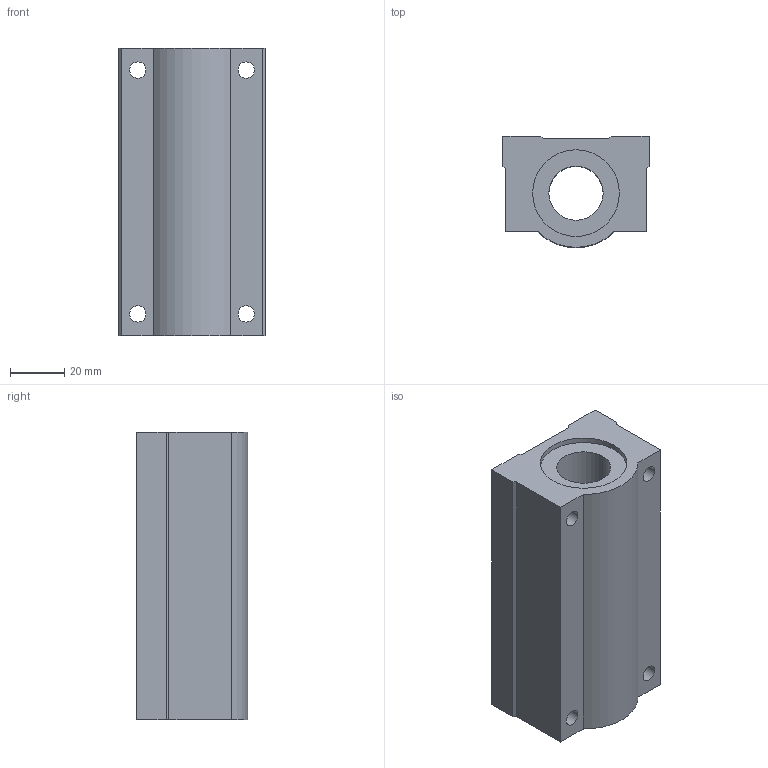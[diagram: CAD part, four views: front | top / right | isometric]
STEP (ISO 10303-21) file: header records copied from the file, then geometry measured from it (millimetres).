
FILE_DESCRIPTION((''),'2;1');
FILE_NAME('C:\Documents and Settings\ｿﾀﾀ蠑ｷ1\ｹﾙﾅﾁ ﾈｭｸ饅\ｺﾎﾇｰﾆﾄﾀﾏ\ﾁｦﾇｰ\SCE__WUU\SCE20WUU.stp','2005-06-22T15:46:49',('ｿﾀﾀ蠑ｷ1'),(''),'Autodesk Inventor 9','Autodesk Inventor 9','');
FILE_SCHEMA(('AUTOMOTIVE_DESIGN { 1 0 10303 214 1 1 1 1 }'));
Length unit declared in the file: millimetre
Products named in the file (1): SCE__UU
Bounding box: 54 x 41 x 106 mm (x, y, z)
Volume: 166017.9 mm3; surface area: 31643.6 mm2
Topology: 1 solids, 1 shells, 32 faces, 84 edges, 56 vertices
Faces by surface type: plane 17, bspline 8, cylinder 7
Entity records: 1145 total; most frequent: CARTESIAN_POINT 309, ORIENTED_EDGE 168, DIRECTION 164, EDGE_CURVE 84, VERTEX_POINT 56, AXIS2_PLACEMENT_3D 55, VECTOR 54, LINE 54
